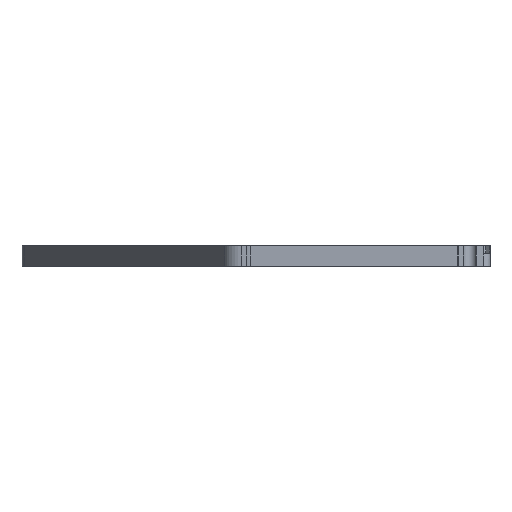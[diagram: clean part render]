
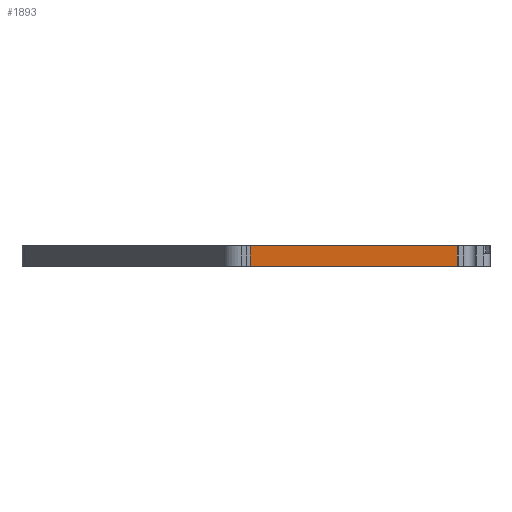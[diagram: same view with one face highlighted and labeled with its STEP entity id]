
A CAD part, left-side view. The second image highlights one B-rep face of the part: STEP entity #1893.
In plain terms, the highlighted planar face has unit normal (-0.997, 0.082, 0).
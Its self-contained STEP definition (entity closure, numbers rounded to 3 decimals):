
#76=PLANE('',#2094);
#162=FACE_OUTER_BOUND('',#278,.T.);
#278=EDGE_LOOP('',(#1684,#1685,#1686,#1687));
#318=LINE('',#2742,#504);
#367=LINE('',#2918,#553);
#470=LINE('',#3196,#656);
#471=LINE('',#3198,#657);
#504=VECTOR('',#2176,10.);
#553=VECTOR('',#2311,10.);
#656=VECTOR('',#2616,10.);
#657=VECTOR('',#2619,10.);
#786=VERTEX_POINT('',#2738);
#788=VERTEX_POINT('',#2741);
#871=VERTEX_POINT('',#2915);
#872=VERTEX_POINT('',#2917);
#975=EDGE_CURVE('',#786,#788,#318,.T.);
#1064=EDGE_CURVE('',#871,#872,#367,.T.);
#1207=EDGE_CURVE('',#872,#786,#470,.T.);
#1208=EDGE_CURVE('',#788,#871,#471,.T.);
#1684=ORIENTED_EDGE('',*,*,#1207,.F.);
#1685=ORIENTED_EDGE('',*,*,#1064,.F.);
#1686=ORIENTED_EDGE('',*,*,#1208,.F.);
#1687=ORIENTED_EDGE('',*,*,#975,.F.);
#1893=ADVANCED_FACE('',(#162),#76,.T.);
#2094=AXIS2_PLACEMENT_3D('',#3197,#2617,#2618);
#2176=DIRECTION('',(0.082,0.997,0.));
#2311=DIRECTION('',(-0.082,-0.997,0.));
#2616=DIRECTION('',(0.,0.,-1.));
#2617=DIRECTION('center_axis',(-0.997,0.082,0.));
#2618=DIRECTION('ref_axis',(-0.082,-0.997,0.));
#2619=DIRECTION('',(0.,0.,1.));
#2738=CARTESIAN_POINT('',(-329.5,26.052,0.));
#2741=CARTESIAN_POINT('',(-319.496,147.222,0.));
#2742=CARTESIAN_POINT('',(-329.541,25.559,0.));
#2915=CARTESIAN_POINT('',(-319.496,147.222,12.));
#2917=CARTESIAN_POINT('',(-329.5,26.052,12.));
#2918=CARTESIAN_POINT('',(-329.541,25.559,12.));
#3196=CARTESIAN_POINT('',(-329.5,26.052,3.));
#3197=CARTESIAN_POINT('Origin',(-319.496,147.222,0.));
#3198=CARTESIAN_POINT('',(-319.496,147.222,12.));
